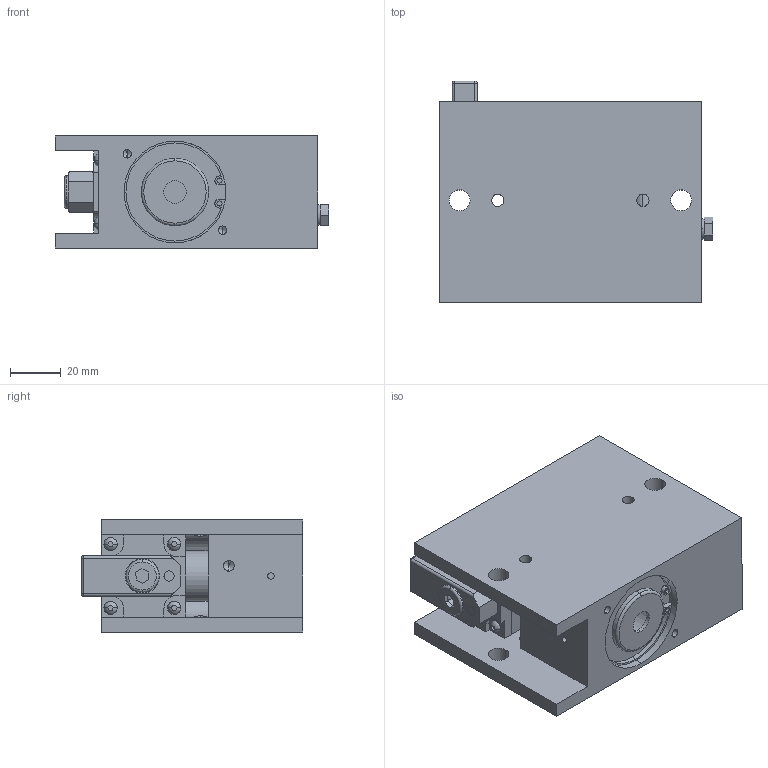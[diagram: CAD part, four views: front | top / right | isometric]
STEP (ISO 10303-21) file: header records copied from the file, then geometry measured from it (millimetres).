
FILE_DESCRIPTION (( 'STEP AP203' ), '1' );
FILE_NAME ('DBS-140-08-EW.STEP', '2015-10-09T09:06:15', ( '' ), ( '' ), 'SwSTEP 2.0', 'SolidWorks 2015', '' );
FILE_SCHEMA (( 'CONFIG_CONTROL_DESIGN' ));
Length unit declared in the file: millimetre
Products named in the file (1): DBS-140-08-EW
Bounding box: 107.4 x 87 x 44 mm (x, y, z)
Volume: 291407.7 mm3; surface area: 63310.1 mm2
Topology: 6 solids, 7 shells, 273 faces, 659 edges, 423 vertices
Faces by surface type: plane 138, cylinder 103, torus 14, sphere 12, cone 6
Entity records: 8126 total; most frequent: DIRECTION 1487, CARTESIAN_POINT 1426, ORIENTED_EDGE 1298, EDGE_CURVE 649, AXIS2_PLACEMENT_3D 572, VERTEX_POINT 423, VECTOR 343, LINE 343
